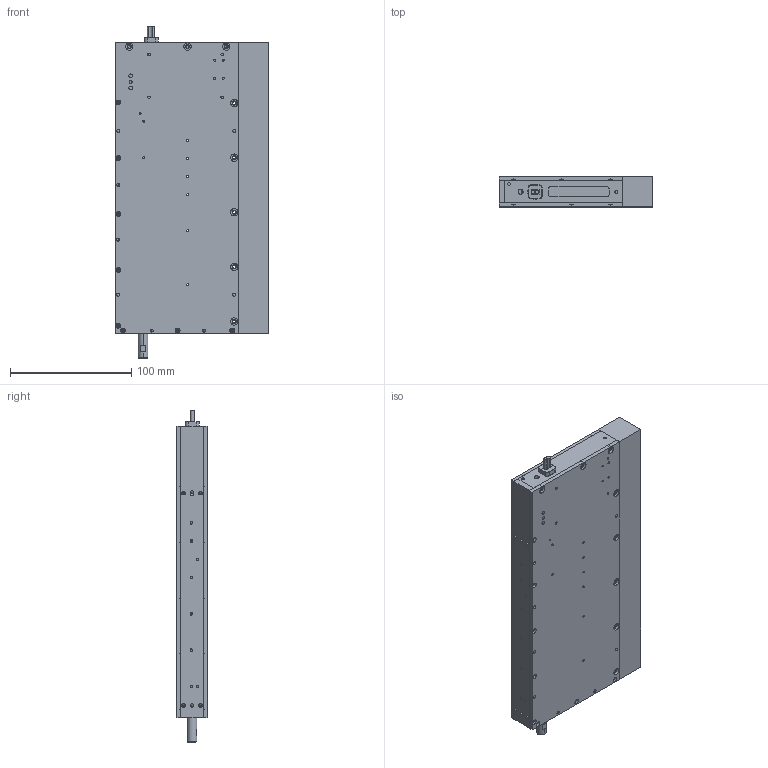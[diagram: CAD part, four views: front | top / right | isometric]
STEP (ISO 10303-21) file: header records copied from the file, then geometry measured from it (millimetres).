
FILE_DESCRIPTION (( 'STEP AP203' ), '1' );
FILE_NAME ('LBL25-075-3X-3_D.STEP', '2020-05-27T17:45:20', ( '' ), ( '' ), 'SwSTEP 2.0', 'SolidWorks 2018', '' );
FILE_SCHEMA (( 'CONFIG_CONTROL_DESIGN' ));
Length unit declared in the file: millimetre
Products named in the file (9): 140807-75_B; 140806-02_CURRENT; 230090-03; LBL25-075-3X-3_D; 140807-76; 110091-01_H; 230091-76_B; cable-g_b; 210101-75
Assembly tree (8 placements, depth 2):
  LBL25-075-3X-3_D
    cable-g_b
    210101-75
    230090-03
    110091-01_H
    230091-76_B
    140807-75_B
    140807-76
    140806-02_CURRENT
Bounding box: 126.6 x 24.8 x 273.65 mm (x, y, z)
Volume: 287531.3 mm3; surface area: 174587.3 mm2
Topology: 8 solids, 8 shells, 681 faces, 1681 edges, 1025 vertices
Faces by surface type: cylinder 402, cone 139, plane 132, torus 8
Entity records: 21215 total; most frequent: DIRECTION 3862, CARTESIAN_POINT 3367, ORIENTED_EDGE 3208, EDGE_CURVE 1604, AXIS2_PLACEMENT_3D 1572, VERTEX_POINT 1025, EDGE_LOOP 973, CIRCLE 880
